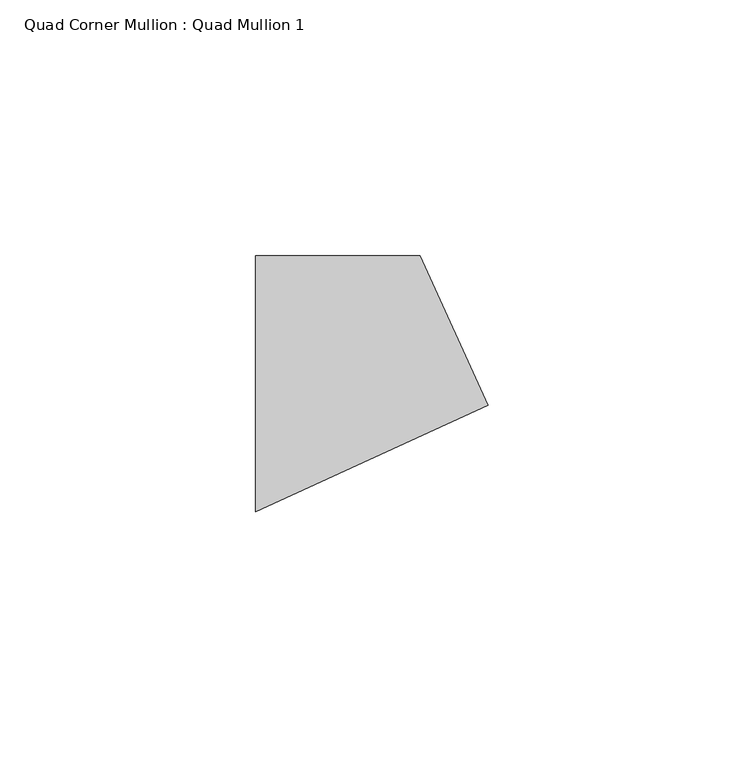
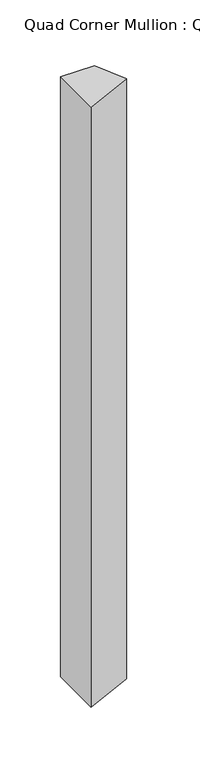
"""IFC4 building model written with IfcOpenShell, lengths in millimetres: member geometry, Quad Corner Mullion : Quad Mullion 1."""

from ifc_helpers import new_model, si_unit, frame, origin, place, context, project, spatial, polyline, outline, extrude, source, transform, mapped, element, save


def quad_corner_mullion_quad_mullion_1_ef5a4544(model_context):
    return source(origin(), model_context, "Body", "SweptSolid", [
        extrude(outline(polyline([(29.4125559, -4.1926582), (-16.0523154, -25.0), (-16.0523154, 25.0), (16.0523154, 25.0), (29.4125559, -4.1926582)])), frame((0.0, 0.0, -601.0761699), z_axis=(0.0, 0.0, 1.0), x_axis=(1.0, 0.0, 0.0)), (0.0, 0.0, 1.0), 601.0761699),
    ])


if __name__ == "__main__":
    model = new_model("IFC4")
    model_context = context("Model", 3, world=origin())
    ifc_project = project(units=[si_unit("LENGTHUNIT", "METRE", prefix="MILLI")], contexts=[model_context])
    site = spatial("IfcSite", under=ifc_project)
    building = spatial("IfcBuilding", under=site)
    placement = place(None, origin())
    quad_corner_mullion_quad_mullion_1_shape = quad_corner_mullion_quad_mullion_1_ef5a4544(model_context)
    element("IfcMember", 1, ObjectType="Quad Corner Mullion : Quad Mullion 1", at=placement, inside=building, context=model_context, shape_type="MappedRepresentation", body=[
        mapped(quad_corner_mullion_quad_mullion_1_shape, transform((0.0, 0.0, 0.0), x_axis=(1.0, 0.0, 0.0), y_axis=(0.0, 1.0, 0.0), z_axis=(0.0, 0.0, 1.0))),
    ])
    save(model, "model.ifc")
